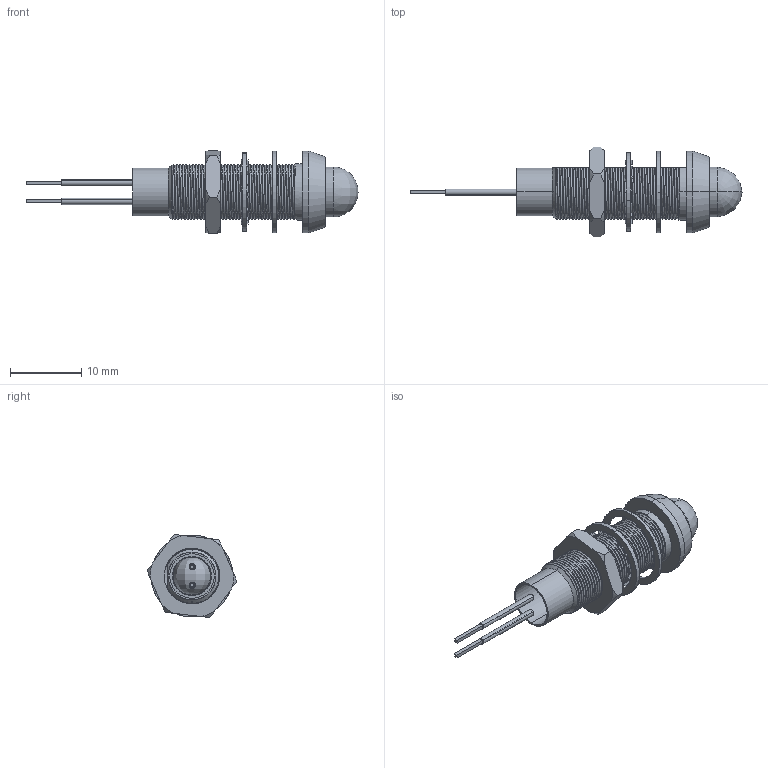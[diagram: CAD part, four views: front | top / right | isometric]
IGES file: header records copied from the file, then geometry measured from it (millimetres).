
Start section: SolidWorks IGES file using analytic representation for surfaces
Global section: file name: G:\Marl\DESIGN\Paul Robson\STEP-IGES FILES\614 Bi-colour\614 Bi-colour.IGS; native system: SolidWorks 2016; preprocessor: SolidWorks 2016; author: Paulr; date: 160804.155442; units: millimetre
Bounding box: 46.6 x 12.62 x 11.66 mm (x, y, z)
Surface area: 2289.5 mm2 (no closed solid volume)
Topology: 0 solids, 0 shells, 353 faces, 4041 edges, 4036 vertices
Faces by surface type: bspline 243, revolution 110
